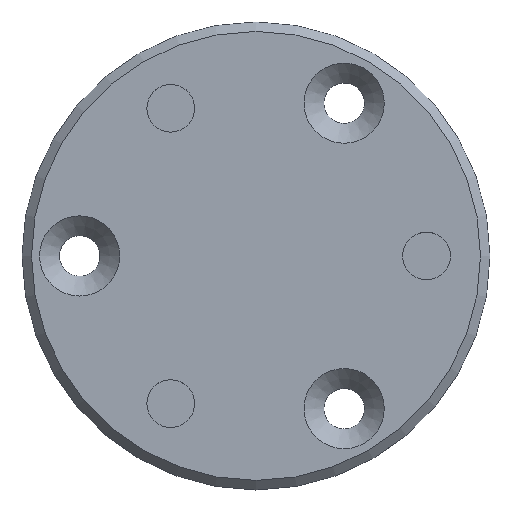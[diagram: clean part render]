
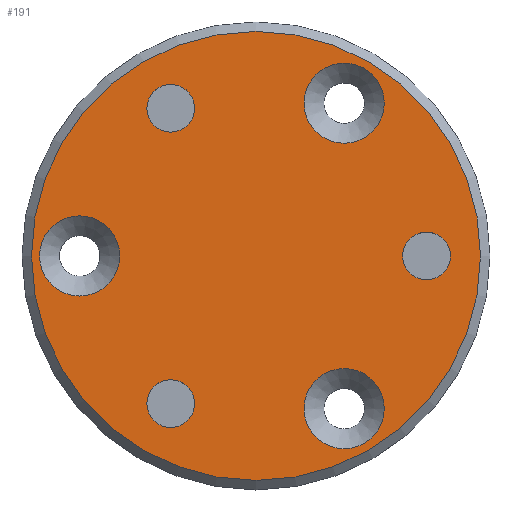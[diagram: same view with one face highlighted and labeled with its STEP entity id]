
A CAD part, top view. The second image highlights one B-rep face of the part: STEP entity #191.
In plain terms, the highlighted planar face has unit normal (0, 0, 1).
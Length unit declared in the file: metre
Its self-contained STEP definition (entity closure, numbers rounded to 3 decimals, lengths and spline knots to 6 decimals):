
#16=PLANE('',#222);
#23=ORIENTED_EDGE('',*,*,#59,.F.);
#24=ORIENTED_EDGE('',*,*,#60,.F.);
#25=ORIENTED_EDGE('',*,*,#61,.F.);
#26=ORIENTED_EDGE('',*,*,#62,.T.);
#27=ORIENTED_EDGE('',*,*,#63,.T.);
#28=ORIENTED_EDGE('',*,*,#64,.T.);
#29=ORIENTED_EDGE('',*,*,#65,.T.);
#59=EDGE_CURVE('',#77,#77,#95,.T.);
#60=EDGE_CURVE('',#78,#78,#96,.T.);
#61=EDGE_CURVE('',#79,#79,#97,.T.);
#62=EDGE_CURVE('',#80,#80,#98,.T.);
#63=EDGE_CURVE('',#81,#81,#99,.T.);
#64=EDGE_CURVE('',#82,#82,#100,.T.);
#65=EDGE_CURVE('',#83,#83,#101,.T.);
#77=VERTEX_POINT('',#331);
#78=VERTEX_POINT('',#333);
#79=VERTEX_POINT('',#335);
#80=VERTEX_POINT('',#337);
#81=VERTEX_POINT('',#339);
#82=VERTEX_POINT('',#341);
#83=VERTEX_POINT('',#343);
#95=CIRCLE('',#223,0.002);
#96=CIRCLE('',#224,0.002);
#97=CIRCLE('',#225,0.002);
#98=CIRCLE('',#226,0.01881);
#99=CIRCLE('',#227,0.00336);
#100=CIRCLE('',#228,0.00336);
#101=CIRCLE('',#229,0.00336);
#113=EDGE_LOOP('',(#23));
#114=EDGE_LOOP('',(#24));
#115=EDGE_LOOP('',(#25));
#116=EDGE_LOOP('',(#26));
#117=EDGE_LOOP('',(#27));
#118=EDGE_LOOP('',(#28));
#119=EDGE_LOOP('',(#29));
#149=FACE_BOUND('',#113,.T.);
#150=FACE_BOUND('',#114,.T.);
#151=FACE_BOUND('',#115,.T.);
#152=FACE_BOUND('',#116,.T.);
#153=FACE_BOUND('',#117,.T.);
#154=FACE_BOUND('',#118,.T.);
#155=FACE_BOUND('',#119,.T.);
#191=ADVANCED_FACE('',(#149,#150,#151,#152,#153,#154,#155),#16,.T.);
#222=AXIS2_PLACEMENT_3D('',#329,#261,#262);
#223=AXIS2_PLACEMENT_3D('',#330,#263,#264);
#224=AXIS2_PLACEMENT_3D('',#332,#265,#266);
#225=AXIS2_PLACEMENT_3D('',#334,#267,#268);
#226=AXIS2_PLACEMENT_3D('',#336,#269,#270);
#227=AXIS2_PLACEMENT_3D('',#338,#271,#272);
#228=AXIS2_PLACEMENT_3D('',#340,#273,#274);
#229=AXIS2_PLACEMENT_3D('',#342,#275,#276);
#261=DIRECTION('',(0.,0.,1.));
#262=DIRECTION('',(1.,0.,0.));
#263=DIRECTION('',(0.,0.,1.));
#264=DIRECTION('',(1.,0.,0.));
#265=DIRECTION('',(0.,0.,1.));
#266=DIRECTION('',(1.,0.,0.));
#267=DIRECTION('',(0.,0.,1.));
#268=DIRECTION('',(1.,0.,0.));
#269=DIRECTION('',(0.,0.,1.));
#270=DIRECTION('',(1.,0.,0.));
#271=DIRECTION('',(0.,0.,-1.));
#272=DIRECTION('',(-1.,0.,0.));
#273=DIRECTION('',(0.,0.,-1.));
#274=DIRECTION('',(-1.,0.,0.));
#275=DIRECTION('',(0.,0.,-1.));
#276=DIRECTION('',(-1.,0.,0.));
#329=CARTESIAN_POINT('',(0.,0.,0.060403));
#330=CARTESIAN_POINT('',(0.014288,0.,0.060403));
#331=CARTESIAN_POINT('',(0.016287,0.,0.060403));
#332=CARTESIAN_POINT('',(-0.007144,-0.012373,0.060403));
#333=CARTESIAN_POINT('',(-0.005144,-0.012373,0.060403));
#334=CARTESIAN_POINT('',(-0.007144,0.012373,0.060403));
#335=CARTESIAN_POINT('',(-0.005144,0.012373,0.060403));
#336=CARTESIAN_POINT('',(0.,0.,0.060403));
#337=CARTESIAN_POINT('',(0.01881,0.,0.060403));
#338=CARTESIAN_POINT('',(-0.014778,0.,0.060403));
#339=CARTESIAN_POINT('',(-0.018138,0.,0.060403));
#340=CARTESIAN_POINT('',(0.007389,0.012798,0.060403));
#341=CARTESIAN_POINT('',(0.004029,0.012798,0.060403));
#342=CARTESIAN_POINT('',(0.007389,-0.012798,0.060403));
#343=CARTESIAN_POINT('',(0.004029,-0.012798,0.060403));
